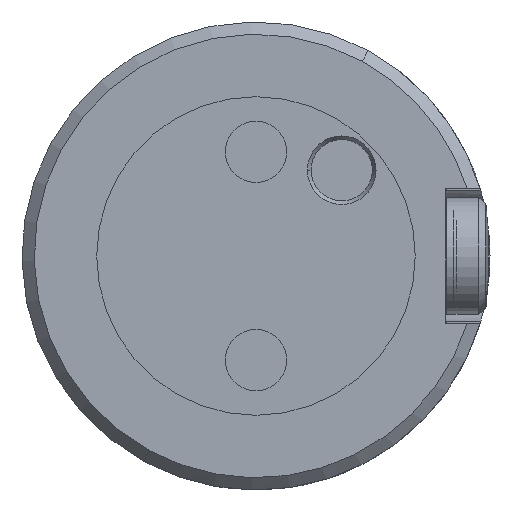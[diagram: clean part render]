
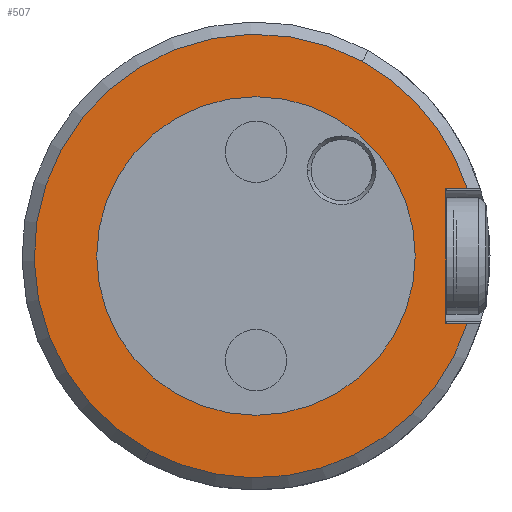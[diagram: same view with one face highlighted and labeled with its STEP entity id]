
A CAD part, left-side view. The second image highlights one B-rep face of the part: STEP entity #507.
In plain terms, the highlighted planar face has unit normal (-1, 0, 0).
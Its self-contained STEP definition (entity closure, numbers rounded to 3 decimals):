
#289=CARTESIAN_POINT('Vertex',(0.,8.678,-15.884)) ;
#292=CARTESIAN_POINT('Axis2P3D Location',(0.,0.,0.)) ;
#296=CARTESIAN_POINT('Vertex',(0.,-8.678,15.884)) ;
#316=CARTESIAN_POINT('Axis2P3D Location',(0.,0.,0.)) ;
#320=CARTESIAN_POINT('Vertex',(0.,-17.244,-5.5)) ;
#350=CARTESIAN_POINT('Axis2P3D Location',(0.,0.,0.)) ;
#354=CARTESIAN_POINT('Vertex',(0.,-17.244,5.5)) ;
#457=CARTESIAN_POINT('Axis2P3D Location',(0.,0.,-19.1)) ;
#462=CARTESIAN_POINT('Line Origine',(0.,-16.372,-5.5)) ;
#466=CARTESIAN_POINT('Vertex',(0.,-15.5,-5.5)) ;
#469=CARTESIAN_POINT('Line Origine',(0.,-15.5,0.)) ;
#473=CARTESIAN_POINT('Vertex',(0.,-15.5,5.5)) ;
#476=CARTESIAN_POINT('Line Origine',(0.,-16.372,5.5)) ;
#489=CARTESIAN_POINT('Axis2P3D Location',(0.,0.,0.)) ;
#493=CARTESIAN_POINT('Vertex',(0.,13.,0.)) ;
#495=CARTESIAN_POINT('Vertex',(0.,-13.,0.)) ;
#498=CARTESIAN_POINT('Axis2P3D Location',(0.,0.,0.)) ;
#293=DIRECTION('Axis2P3D Direction',(1.,0.,0.)) ;
#317=DIRECTION('Axis2P3D Direction',(1.,0.,0.)) ;
#351=DIRECTION('Axis2P3D Direction',(1.,0.,0.)) ;
#458=DIRECTION('Axis2P3D Direction',(1.,0.,0.)) ;
#459=DIRECTION('Axis2P3D XDirection',(0.,1.,0.)) ;
#463=DIRECTION('Vector Direction',(0.,1.,0.)) ;
#470=DIRECTION('Vector Direction',(0.,0.,-1.)) ;
#477=DIRECTION('Vector Direction',(0.,-1.,0.)) ;
#490=DIRECTION('Axis2P3D Direction',(1.,0.,0.)) ;
#499=DIRECTION('Axis2P3D Direction',(1.,0.,0.)) ;
#294=AXIS2_PLACEMENT_3D('Circle Axis2P3D',#292,#293,$) ;
#318=AXIS2_PLACEMENT_3D('Circle Axis2P3D',#316,#317,$) ;
#352=AXIS2_PLACEMENT_3D('Circle Axis2P3D',#350,#351,$) ;
#460=AXIS2_PLACEMENT_3D('Plane Axis2P3D',#457,#458,#459) ;
#491=AXIS2_PLACEMENT_3D('Circle Axis2P3D',#489,#490,$) ;
#500=AXIS2_PLACEMENT_3D('Circle Axis2P3D',#498,#499,$) ;
#482=ORIENTED_EDGE('',*,*,#468,.F.) ;
#483=ORIENTED_EDGE('',*,*,#475,.F.) ;
#484=ORIENTED_EDGE('',*,*,#480,.F.) ;
#485=ORIENTED_EDGE('',*,*,#356,.F.) ;
#486=ORIENTED_EDGE('',*,*,#298,.F.) ;
#487=ORIENTED_EDGE('',*,*,#322,.F.) ;
#504=ORIENTED_EDGE('',*,*,#497,.F.) ;
#505=ORIENTED_EDGE('',*,*,#502,.F.) ;
#506=FACE_BOUND('',#503,.T.) ;
#464=VECTOR('Line Direction',#463,1.) ;
#471=VECTOR('Line Direction',#470,1.) ;
#478=VECTOR('Line Direction',#477,1.) ;
#507=ADVANCED_FACE('',(#488,#506),#461,.F.) ;
#295=CIRCLE('generated circle',#294,18.1) ;
#319=CIRCLE('generated circle',#318,18.1) ;
#353=CIRCLE('generated circle',#352,18.1) ;
#492=CIRCLE('generated circle',#491,13.) ;
#501=CIRCLE('generated circle',#500,13.) ;
#298=EDGE_CURVE('',#290,#297,#295,.T.) ;
#322=EDGE_CURVE('',#321,#290,#319,.T.) ;
#356=EDGE_CURVE('',#297,#355,#353,.T.) ;
#468=EDGE_CURVE('',#467,#321,#465,.F.) ;
#475=EDGE_CURVE('',#474,#467,#472,.T.) ;
#480=EDGE_CURVE('',#355,#474,#479,.F.) ;
#497=EDGE_CURVE('',#494,#496,#492,.F.) ;
#502=EDGE_CURVE('',#496,#494,#501,.F.) ;
#481=EDGE_LOOP('',(#482,#483,#484,#485,#486,#487)) ;
#503=EDGE_LOOP('',(#504,#505)) ;
#488=FACE_OUTER_BOUND('',#481,.T.) ;
#465=LINE('Line',#462,#464) ;
#472=LINE('Line',#469,#471) ;
#479=LINE('Line',#476,#478) ;
#461=PLANE('Plane',#460) ;
#290=VERTEX_POINT('',#289) ;
#297=VERTEX_POINT('',#296) ;
#321=VERTEX_POINT('',#320) ;
#355=VERTEX_POINT('',#354) ;
#467=VERTEX_POINT('',#466) ;
#474=VERTEX_POINT('',#473) ;
#494=VERTEX_POINT('',#493) ;
#496=VERTEX_POINT('',#495) ;
